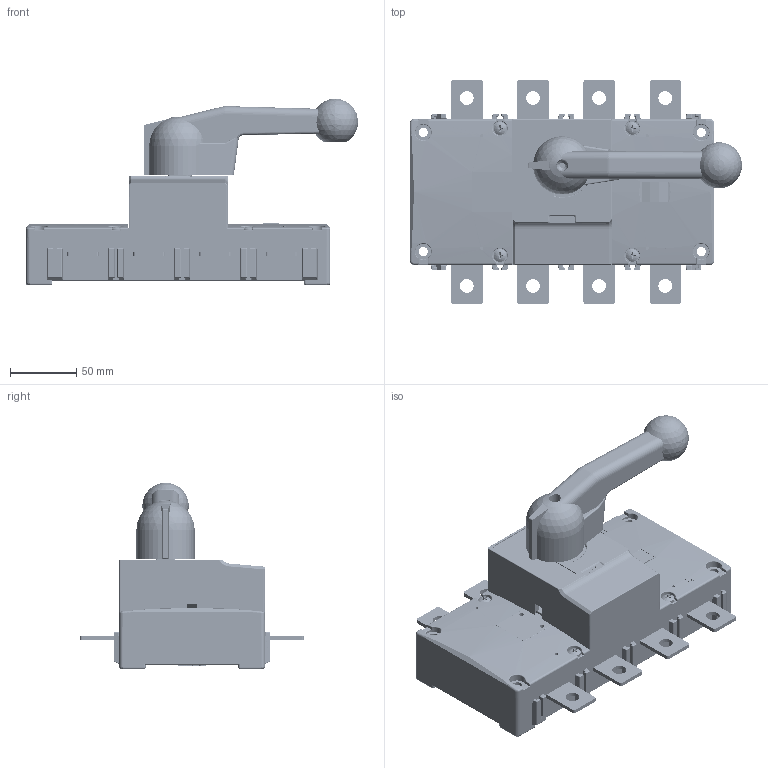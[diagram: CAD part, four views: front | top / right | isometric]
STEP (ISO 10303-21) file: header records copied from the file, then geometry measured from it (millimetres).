
FILE_DESCRIPTION((''),'2;1');
FILE_NAME('NH40_250_4_ASM','2025-03-22T',('zhuanghy'),(''),'CREO PARAMETRIC BY PTC INC, 2018070','CREO PARAMETRIC BY PTC INC, 2018070','');
FILE_SCHEMA(('AUTOMOTIVE_DESIGN { 1 0 10303 214 1 1 1 1 }'));
Products named in the file (17): ____GBT97_1__10_M5_1; _______GBT818__9_5XM5X30; __________GBT845__8XST4X22_F; PRODUCT_21033; PRODUCT_137779; _____GBT6170_M5; __16; __14; __7; PRODUCT_117265_ASM; PRODUCT_39550; ____GBT97_1__9_M4_0_8; ________630; NH40_4_ASM; NH40-200_250-4W_202503; NH40-200_250_202107_; NH40_250_4_ASM
Assembly tree (36 placements, depth 4):
  NH40_250_4_ASM
    NH40_4_ASM
      ____GBT97_1__10_M5_1  x4
      _______GBT818__9_5XM5X30  x4
      __________GBT845__8XST4X22_F  x3
      PRODUCT_21033  x8
      PRODUCT_137779
      _____GBT6170_M5  x4
      PRODUCT_117265_ASM
        __16
        __14
        __7
      PRODUCT_39550
      ____GBT97_1__9_M4_0_8  x3
      ________630
    NH40-200_250-4W_202503
    NH40-200_250_202107_
Bounding box: 250.87 x 169 x 140.9 mm (x, y, z)
Volume: 1339731.4 mm3; surface area: 245954.5 mm2
Topology: 34 solids, 37 shells, 2890 faces, 7466 edges, 4567 vertices
Faces by surface type: cylinder 1219, plane 953, bspline 276, sphere 155, torus 134, cone 127, extrusion 26
Entity records: 115525 total; most frequent: CARTESIAN_POINT 57209, ORIENTED_EDGE 10278, DIRECTION 9706, EDGE_CURVE 5139, AXIS2_PLACEMENT_3D 3530, VERTEX_POINT 3176, PRESENTATION_STYLE_ASSIGNMENT 3073, STYLED_ITEM 3072
